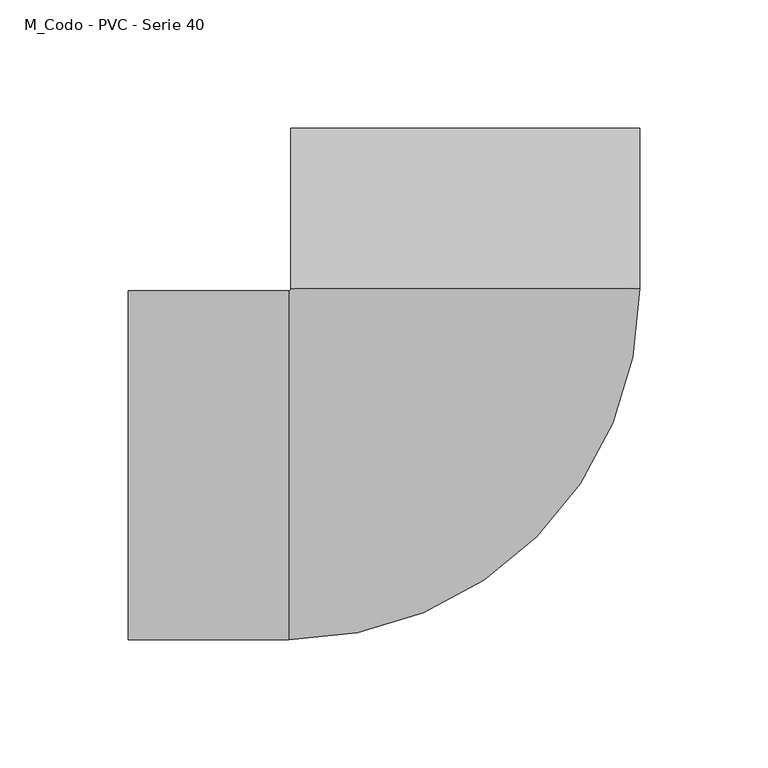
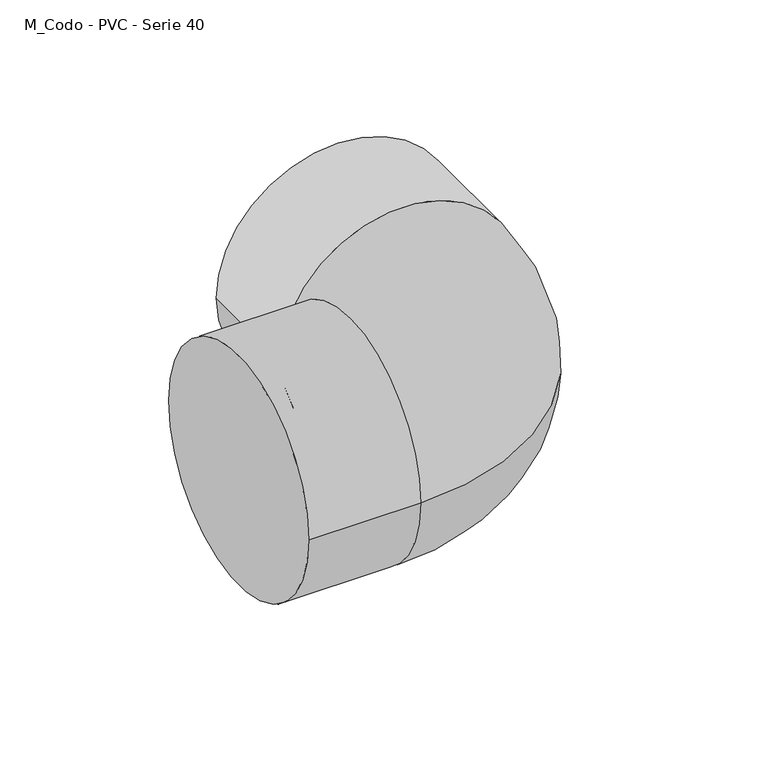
"""IFC4 building model written with IfcOpenShell, lengths in millimetres: pipe fitting geometry, M_Codo - PVC - Serie 40 : Estándar."""

from ifc_helpers import new_model, si_unit, point, frame, origin, place, context, project, spatial, circle_curve, ellipse_curve, trimmed, source, transform, mapped, element, save
from ifc_brep_helpers import plane_surface, cylinder_surface, revolved_surface, advanced_brep


def m_codo_pvc_serie_40_37877417(model_context):
    return source(origin(), model_context, "Body", "AdvancedBrep", [
        advanced_brep(
        [(-131.1875, -67.8960938, 0.0), (-131.1875, 67.8960937, 0.0), (-68.6898437, -67.8960938, 0.0), (-68.6898437, 67.8960937, 0.0), (-67.8960937, 68.6898437, 0.0), (67.8960938, 68.6898437, 0.0), (67.8960938, 131.1875, 0.0), (-67.8960937, 131.1875, 0.0)],
        [
            (0, 1, circle_curve(frame((-131.1875, 0.0, 0.0), z_axis=(-1.0, 0.0, 0.0), x_axis=(0.0, 1.0, 0.0)), 67.8960938)),
            (1, 0, circle_curve(frame((-131.1875, 0.0, 0.0), z_axis=(-1.0, 0.0, 0.0), x_axis=(0.0, 1.0, 0.0)), 67.8960938)),
            (0, 2),
            (2, 3, circle_curve(frame((-68.6898437, 0.0, 0.0), z_axis=(-1.0, 0.0, 0.0), x_axis=(0.0, 1.0, 0.0)), 67.8960938)),
            (3, 1),
            (3, 2, circle_curve(frame((-68.6898437, 0.0, 0.0), z_axis=(-1.0, 0.0, 0.0), x_axis=(0.0, 1.0, 0.0)), 67.8960938)),
            (4, 3, circle_curve(frame((-68.6898437, 68.6898437, 0.0), z_axis=(0.0, 0.0, -1.0), x_axis=(0.0, -1.0, 0.0)), 0.79375)),
            (2, 5, circle_curve(frame((-68.6898437, 68.6898437, 0.0), z_axis=(0.0, 0.0, 1.0), x_axis=(0.0, -1.0, 0.0)), 136.5859375)),
            (5, 4, circle_curve(frame((0.0, 68.6898437, 0.0), z_axis=(0.0, -1.0, 0.0), x_axis=(-1.0, 0.0, 0.0)), 67.8960938)),
            (4, 5, circle_curve(frame((0.0, 68.6898437, 0.0), z_axis=(0.0, -1.0, 0.0), x_axis=(-1.0, 0.0, 0.0)), 67.8960938)),
            (6, 7, circle_curve(frame((0.0, 131.1875, 0.0), z_axis=(0.0, 1.0, 0.0), x_axis=(-1.0, 0.0, 0.0)), 67.8960938)),
            (7, 6, circle_curve(frame((0.0, 131.1875, 0.0), z_axis=(0.0, 1.0, 0.0), x_axis=(-1.0, 0.0, 0.0)), 67.8960938)),
            (5, 6),
            (7, 4),
        ],
        [
            plane_surface(frame((-131.1875, 0.0, 0.0), z_axis=(-1.0, 0.0, 0.0), x_axis=(0.0, 0.0, 1.0))),
            cylinder_surface(frame((-131.1875, 0.0, 0.0), z_axis=(-1.0, 0.0, 0.0), x_axis=(0.0, 1.0, 0.0)), 67.8960938),
            revolved_surface(trimmed(ellipse_curve(frame((-68.6898437, 0.0, 0.0), z_axis=(-1.0, 0.0, 0.0), x_axis=(0.0, 1.0, 0.0)), 67.8960938, 67.8960938), [point((-68.6898437, -67.8960938, 0.0))], [point((-68.6898437, 67.8960937, 0.0))], True, "CARTESIAN"), (-68.6898437, 68.6898437, 0.0), (0.0, 0.0, 1.0)),
            revolved_surface(trimmed(ellipse_curve(frame((-68.6898437, 0.0, 0.0), z_axis=(-1.0, 0.0, 0.0), x_axis=(0.0, 1.0, 0.0)), 67.8960938, 67.8960938), [point((-68.6898437, 67.8960937, 0.0))], [point((-68.6898437, -67.8960938, 0.0))], True, "CARTESIAN"), (-68.6898437, 68.6898437, 0.0), (0.0, 0.0, 1.0)),
            plane_surface(frame((0.0, 131.1875, 0.0), z_axis=(0.0, 1.0, 0.0), x_axis=(0.0, 0.0, 1.0))),
            cylinder_surface(frame((0.0, 68.6898437, 0.0), z_axis=(0.0, -1.0, 0.0), x_axis=(-1.0, 0.0, 0.0)), 67.8960938),
        ],
        [
            (0, [[1, 2]]),
            (1, [[-1, 3, 4, 5]]),
            (1, [[-2, -5, 6, -3]]),
            (2, [[7, -4, 8, 9]]),
            (3, [[-8, -6, -7, 10]]),
            (4, [[11, 12]]),
            (5, [[-9, 13, -12, 14]]),
            (5, [[-10, -14, -11, -13]]),
        ],
    ),
    ])


if __name__ == "__main__":
    model = new_model("IFC4")
    model_context = context("Model", 3, world=origin())
    ifc_project = project(units=[si_unit("LENGTHUNIT", "METRE", prefix="MILLI")], contexts=[model_context])
    site = spatial("IfcSite", under=ifc_project)
    building = spatial("IfcBuilding", under=site)
    placement = place(None, origin())
    m_codo_pvc_serie_40_shape = m_codo_pvc_serie_40_37877417(model_context)
    element("IfcPipeFitting", 1, ObjectType="M_Codo - PVC - Serie 40 : Estándar", at=placement, inside=building, context=model_context, shape_type="MappedRepresentation", body=[
        mapped(m_codo_pvc_serie_40_shape, transform((0.0, 0.0, 0.0), x_axis=(1.0, 0.0, 0.0), y_axis=(0.0, 1.0, 0.0), z_axis=(0.0, 0.0, 1.0))),
    ])
    save(model, "model.ifc")
